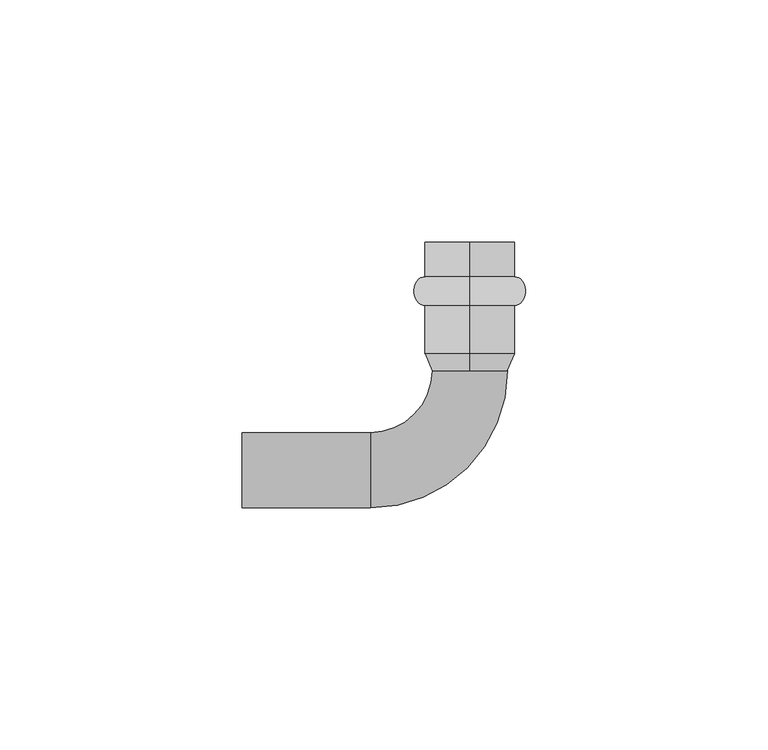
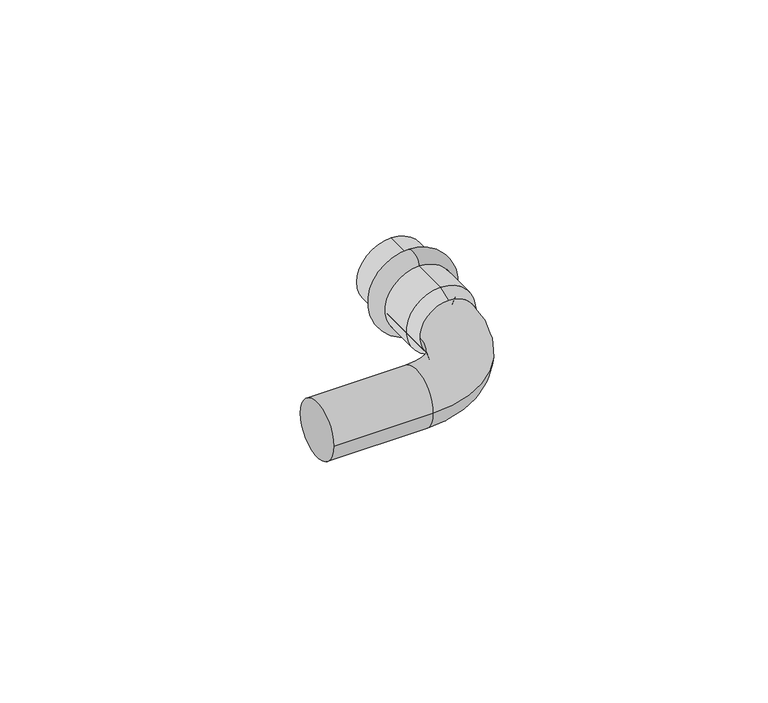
"""IFC4 building model written with IfcOpenShell, lengths in millimetres: pipe fitting geometry, РЕХАУ_Пресс Отвод-вставка : 15 x 90°."""

from ifc_helpers import new_model, si_unit, point, frame, origin, place, context, project, spatial, polyline, circle_curve, ellipse_curve, trimmed, source, transform, mapped, element, save
from ifc_brep_helpers import plane_surface, cylinder_surface, revolved_surface, advanced_brep


def pipe_fitting_bf3eaa2f(model_context):
    return source(origin(), model_context, "Body", "AdvancedBrep", [
        advanced_brep(
        [(47.0, 39.9, 9.25), (47.0, 39.9, -9.25), (47.0, 34.0, -9.25), (47.0, 34.0, 9.25)],
        [
            (0, 1, circle_curve(frame((47.0, 39.9, 0.0), z_axis=(0.0, 1.0, 0.0), x_axis=(0.0, 0.0, -1.0)), 9.25)),
            (1, 2),
            (2, 3, circle_curve(frame((47.0, 34.0, 0.0), z_axis=(0.0, -1.0, 0.0), x_axis=(0.0, 0.0, -1.0)), 9.25)),
            (3, 0),
            (1, 0, circle_curve(frame((47.0, 39.9, 0.0), z_axis=(0.0, 1.0, 0.0), x_axis=(0.0, 0.0, -1.0)), 9.25)),
            (3, 2, circle_curve(frame((47.0, 34.0, 0.0), z_axis=(0.0, -1.0, 0.0), x_axis=(0.0, 0.0, -1.0)), 9.25)),
            (2, 1, ellipse_curve(frame((47.0, 36.95, -9.25), z_axis=(1.0, 0.0, 0.0), x_axis=(0.0, 1.0, 0.0)), 2.95, 2.3)),
            (0, 3, ellipse_curve(frame((47.0, 36.95, 9.25), z_axis=(1.0, 0.0, 0.0), x_axis=(0.0, 1.0, 0.0)), 2.95, 2.3)),
        ],
        [
            revolved_surface(polyline([(47.0, 34.0, -9.25), (47.0, 39.9, -9.25)]), (47.0, 21.0, 0.0), (0.0, -1.0, 0.0)),
            revolved_surface(trimmed(ellipse_curve(frame((47.0, 36.95, -9.25), z_axis=(-1.0, 0.0, 0.0), x_axis=(0.0, 1.0, 0.0)), 2.95, 2.3), [point((47.0, 39.9, -9.25))], [point((47.0, 34.0, -9.25))], True, "CARTESIAN"), (47.0, 21.0, 0.0), (0.0, -1.0, 0.0)),
        ],
        [
            (0, [[1, 2, 3, 4]]),
            (0, [[5, -4, 6, -2]]),
            (1, [[-3, 7, -1, 8]]),
            (1, [[-6, -8, -5, -7]]),
        ],
    ),
        advanced_brep(
        [(47.0, 20.4662215, 7.75), (47.0, 20.4662215, -7.75), (47.0, 24.0, -9.25), (47.0, 24.0, 9.25), (47.0, 47.0, 7.75), (47.0, 47.0, -7.75), (47.0, 47.0, 9.25), (47.0, 47.0, -9.25)],
        [
            (0, 1, circle_curve(frame((47.0, 20.4662215, 0.0), z_axis=(0.0, 1.0, 0.0), x_axis=(0.0, 0.0, -1.0)), 7.75)),
            (1, 2),
            (2, 3, circle_curve(frame((47.0, 24.0, 0.0), z_axis=(0.0, -1.0, 0.0), x_axis=(0.0, 0.0, -1.0)), 9.25)),
            (3, 0),
            (1, 0, circle_curve(frame((47.0, 20.4662215, 0.0), z_axis=(0.0, 1.0, 0.0), x_axis=(0.0, 0.0, -1.0)), 7.75)),
            (3, 2, circle_curve(frame((47.0, 24.0, 0.0), z_axis=(0.0, -1.0, 0.0), x_axis=(0.0, 0.0, -1.0)), 9.25)),
            (4, 5, circle_curve(frame((47.0, 47.0, 0.0), z_axis=(0.0, 1.0, 0.0), x_axis=(0.0, 0.0, -1.0)), 7.75)),
            (5, 1),
            (0, 4),
            (5, 4, circle_curve(frame((47.0, 47.0, 0.0), z_axis=(0.0, 1.0, 0.0), x_axis=(0.0, 0.0, -1.0)), 7.75)),
            (6, 7, circle_curve(frame((47.0, 47.0, 0.0), z_axis=(0.0, 1.0, 0.0), x_axis=(0.0, 0.0, -1.0)), 9.25)),
            (7, 5),
            (4, 6),
            (7, 6, circle_curve(frame((47.0, 47.0, 0.0), z_axis=(0.0, 1.0, 0.0), x_axis=(0.0, 0.0, -1.0)), 9.25)),
            (2, 7),
            (6, 3),
        ],
        [
            revolved_surface(polyline([(47.0, 24.0, -9.25), (47.0, 20.4662215, -7.75)]), (47.0, 21.0, 0.0), (0.0, -1.0, 0.0)),
            revolved_surface(polyline([(47.0, 20.4662215, -7.75), (47.0, 47.0, -7.75)]), (47.0, 21.0, 0.0), (0.0, -1.0, 0.0)),
            plane_surface(frame((47.0, 47.0, 0.0), z_axis=(0.0, 1.0, 0.0), x_axis=(0.0, 0.0, -1.0))),
            cylinder_surface(frame((47.0, 21.0, 0.0), z_axis=(0.0, -1.0, 0.0), x_axis=(0.0, 0.0, -1.0)), 9.25),
        ],
        [
            (0, [[1, 2, 3, 4]]),
            (0, [[5, -4, 6, -2]]),
            (1, [[7, 8, -1, 9]]),
            (1, [[10, -9, -5, -8]]),
            (2, [[11, 12, -7, 13]]),
            (2, [[14, -13, -10, -12]]),
            (3, [[-3, 15, -11, 16]]),
            (3, [[-6, -16, -14, -15]]),
        ],
    ),
        advanced_brep(
        [(0.0, -7.75, 0.0), (0.0, 7.75, 0.0), (26.5337785, -7.75, 0.0), (26.5337785, 7.75, 0.0), (39.25, 20.4662215, 0.0), (54.75, 20.4662215, 0.0), (54.75, 24.0, 0.0), (39.25, 24.0, 0.0)],
        [
            (0, 1, circle_curve(frame((0.0, 0.0, 0.0), z_axis=(-1.0, 0.0, 0.0), x_axis=(0.0, 1.0, 0.0)), 7.75)),
            (1, 0, circle_curve(frame((0.0, 0.0, 0.0), z_axis=(-1.0, 0.0, 0.0), x_axis=(0.0, 1.0, 0.0)), 7.75)),
            (0, 2),
            (2, 3, circle_curve(frame((26.5337785, 0.0, 0.0), z_axis=(-1.0, 0.0, 0.0), x_axis=(0.0, 1.0, 0.0)), 7.75)),
            (3, 1),
            (3, 2, circle_curve(frame((26.5337785, 0.0, 0.0), z_axis=(-1.0, 0.0, 0.0), x_axis=(0.0, 1.0, 0.0)), 7.75)),
            (4, 3, circle_curve(frame((26.5337785, 20.4662215, 0.0), z_axis=(0.0, 0.0, -1.0), x_axis=(0.0, -1.0, 0.0)), 12.7162215)),
            (2, 5, circle_curve(frame((26.5337785, 20.4662215, 0.0), z_axis=(0.0, 0.0, 1.0), x_axis=(0.0, -1.0, 0.0)), 28.2162215)),
            (5, 4, circle_curve(frame((47.0, 20.4662215, 0.0), z_axis=(0.0, -1.0, 0.0), x_axis=(-1.0, 0.0, 0.0)), 7.75)),
            (4, 5, circle_curve(frame((47.0, 20.4662215, 0.0), z_axis=(0.0, -1.0, 0.0), x_axis=(-1.0, 0.0, 0.0)), 7.75)),
            (6, 7, circle_curve(frame((47.0, 24.0, 0.0), z_axis=(0.0, 1.0, 0.0), x_axis=(-1.0, 0.0, 0.0)), 7.75)),
            (7, 6, circle_curve(frame((47.0, 24.0, 0.0), z_axis=(0.0, 1.0, 0.0), x_axis=(-1.0, 0.0, 0.0)), 7.75)),
            (5, 6),
            (7, 4),
        ],
        [
            plane_surface(frame((0.0, 0.0, 0.0), z_axis=(-1.0, 0.0, 0.0), x_axis=(0.0, 0.0, 1.0))),
            cylinder_surface(frame((0.0, 0.0, 0.0), z_axis=(-1.0, 0.0, 0.0), x_axis=(0.0, 1.0, 0.0)), 7.75),
            revolved_surface(trimmed(ellipse_curve(frame((26.5337785, 0.0, 0.0), z_axis=(-1.0, 0.0, 0.0), x_axis=(0.0, 1.0, 0.0)), 7.75, 7.75), [point((26.5337785, -7.75, 0.0))], [point((26.5337785, 7.75, 0.0))], True, "CARTESIAN"), (26.5337785, 20.4662215, 0.0), (0.0, 0.0, 1.0)),
            revolved_surface(trimmed(ellipse_curve(frame((26.5337785, 0.0, 0.0), z_axis=(-1.0, 0.0, 0.0), x_axis=(0.0, 1.0, 0.0)), 7.75, 7.75), [point((26.5337785, 7.75, 0.0))], [point((26.5337785, -7.75, 0.0))], True, "CARTESIAN"), (26.5337785, 20.4662215, 0.0), (0.0, 0.0, 1.0)),
            plane_surface(frame((47.0, 24.0, 0.0), z_axis=(0.0, 1.0, 0.0), x_axis=(0.0, 0.0, 1.0))),
            cylinder_surface(frame((47.0, 20.4662215, 0.0), z_axis=(0.0, -1.0, 0.0), x_axis=(-1.0, 0.0, 0.0)), 7.75),
        ],
        [
            (0, [[1, 2]]),
            (1, [[-1, 3, 4, 5]]),
            (1, [[-2, -5, 6, -3]]),
            (2, [[7, -4, 8, 9]]),
            (3, [[-8, -6, -7, 10]]),
            (4, [[11, 12]]),
            (5, [[-9, 13, -12, 14]]),
            (5, [[-10, -14, -11, -13]]),
        ],
    ),
    ])


if __name__ == "__main__":
    model = new_model("IFC4")
    model_context = context("Model", 3, world=origin())
    ifc_project = project(units=[si_unit("LENGTHUNIT", "METRE", prefix="MILLI")], contexts=[model_context])
    site = spatial("IfcSite", under=ifc_project)
    building = spatial("IfcBuilding", under=site)
    placement = place(None, origin())
    pipe_fitting_shape = pipe_fitting_bf3eaa2f(model_context)
    element("IfcPipeFitting", 1, ObjectType="РЕХАУ_Пресс Отвод-вставка : 15 x 90°", at=placement, inside=building, context=model_context, shape_type="MappedRepresentation", body=[
        mapped(pipe_fitting_shape, transform((0.0, 0.0, 0.0), x_axis=(1.0, 0.0, 0.0), y_axis=(0.0, 1.0, 0.0), z_axis=(0.0, 0.0, 1.0))),
    ])
    save(model, "model.ifc")
